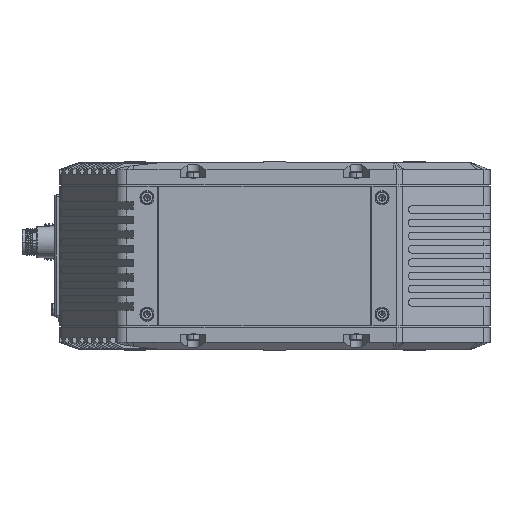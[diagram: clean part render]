
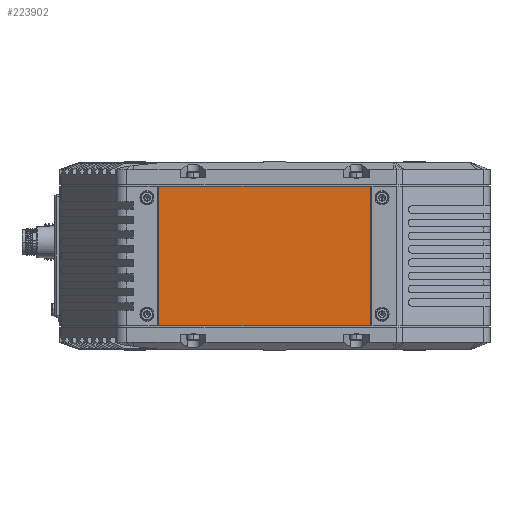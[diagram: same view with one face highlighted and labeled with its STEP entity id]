
A CAD part, left-side view. The second image highlights one B-rep face of the part: STEP entity #223902.
In plain terms, the highlighted planar face has unit normal (-1, 0, 0).
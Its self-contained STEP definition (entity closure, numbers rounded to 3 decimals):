
#76049=DIRECTION('',(0.,-1.,0.));
#76050=VECTOR('',#76049,91.);
#76051=CARTESIAN_POINT('',(-154.,462.256,-30.));
#76052=LINE('',#76051,#76050);
#76063=DIRECTION('',(0.,0.,1.));
#76064=VECTOR('',#76063,60.);
#76065=CARTESIAN_POINT('',(-154.,462.256,-30.));
#76066=LINE('',#76065,#76064);
#76070=DIRECTION('',(0.,0.,1.));
#76071=VECTOR('',#76070,60.);
#76072=CARTESIAN_POINT('',(-154.,371.256,-30.));
#76073=LINE('',#76072,#76071);
#76084=DIRECTION('',(0.,-1.,0.));
#76085=VECTOR('',#76084,91.);
#76086=CARTESIAN_POINT('',(-154.,462.256,30.));
#76087=LINE('',#76086,#76085);
#113732=CARTESIAN_POINT('',(-154.,462.256,-30.));
#113733=CARTESIAN_POINT('',(-154.,462.256,30.));
#113734=VERTEX_POINT('',#113732);
#113735=VERTEX_POINT('',#113733);
#113736=CARTESIAN_POINT('',(-154.,371.256,-30.));
#113737=CARTESIAN_POINT('',(-154.,371.256,30.));
#113738=VERTEX_POINT('',#113736);
#113739=VERTEX_POINT('',#113737);
#223889=CARTESIAN_POINT('',(-154.,478.819,-30.));
#223890=DIRECTION('',(-1.,0.,0.));
#223891=DIRECTION('',(0.,-1.,0.));
#223892=AXIS2_PLACEMENT_3D('',#223889,#223890,#223891);
#223893=PLANE('',#223892);
#223894=ORIENTED_EDGE('',*,*,#223856,.T.);
#223896=ORIENTED_EDGE('',*,*,#223895,.T.);
#223898=ORIENTED_EDGE('',*,*,#223897,.F.);
#223899=ORIENTED_EDGE('',*,*,#223875,.F.);
#223900=EDGE_LOOP('',(#223894,#223896,#223898,#223899));
#223901=FACE_OUTER_BOUND('',#223900,.F.);
#223856=EDGE_CURVE('',#113734,#113735,#76066,.T.);
#223875=EDGE_CURVE('',#113734,#113738,#76052,.T.);
#223895=EDGE_CURVE('',#113735,#113739,#76087,.T.);
#223897=EDGE_CURVE('',#113738,#113739,#76073,.T.);
#223902=ADVANCED_FACE('',(#223901),#223893,.T.);
